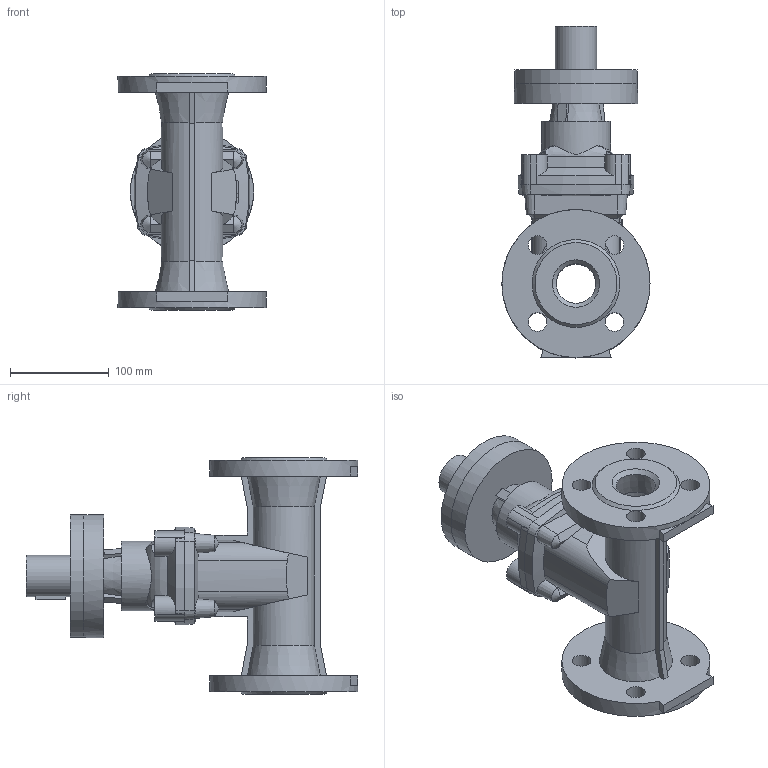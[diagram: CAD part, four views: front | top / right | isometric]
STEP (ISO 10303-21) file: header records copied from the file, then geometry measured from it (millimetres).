
FILE_DESCRIPTION (( 'STEP AP203' ), '1' );
FILE_NAME ('O_15_70_DN040_X1X_AA0.step', '2017-03-10T08:46:59', ( 'Windows User' ), ( 'AVK' ), 'SwSTEP 2.0', 'SolidWorks 2012', '' );
FILE_SCHEMA (( 'CONFIG_CONTROL_DESIGN' ));
Length unit declared in the file: millimetre
Products named in the file (1): O_15_70_DN040_X1X_AA0
Bounding box: 150 x 336 x 240 mm (x, y, z)
Volume: 2269715.1 mm3; surface area: 261717 mm2
Topology: 1 solids, 1 shells, 243 faces, 642 edges, 417 vertices
Faces by surface type: plane 123, cylinder 59, cone 55, torus 4, bspline 2
Full cylindrical faces by diameter (mm): 8.5 x4, 11.5 x4, 19 x8, 42 x1, 50 x1, 70 x1, 125 x2, 150 x2
Entity records: 8200 total; most frequent: CARTESIAN_POINT 2553, ORIENTED_EDGE 1176, DIRECTION 1084, EDGE_CURVE 588, AXIS2_PLACEMENT_3D 418, VERTEX_POINT 396, EDGE_LOOP 310, FACE_OUTER_BOUND 266
